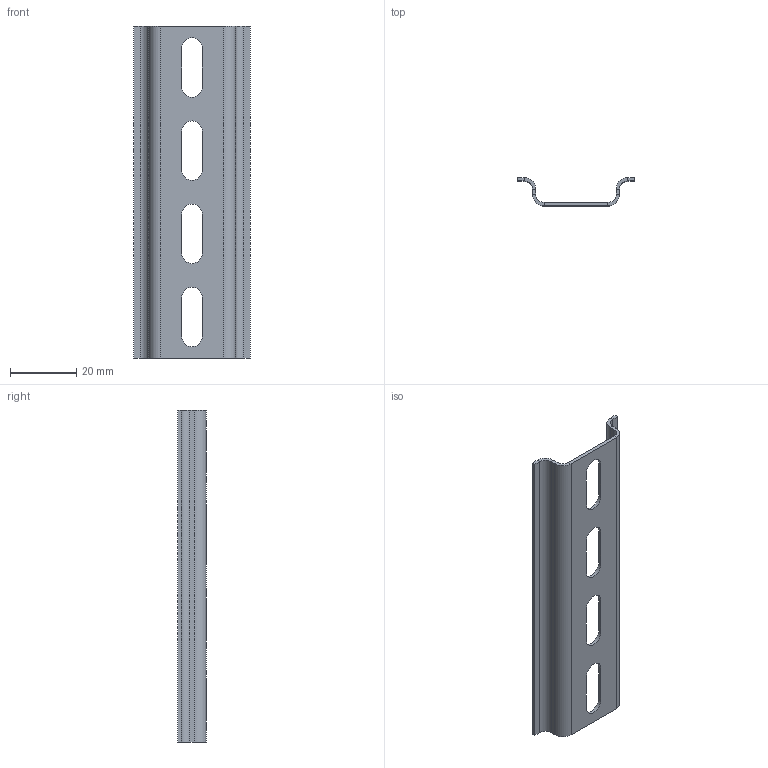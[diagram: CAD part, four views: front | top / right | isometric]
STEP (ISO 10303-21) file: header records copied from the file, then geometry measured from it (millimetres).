
FILE_DESCRIPTION (( 'STEP AP214' ), '1' );
FILE_NAME ('DIN-ðåéêà 100ìì õ 0,1 ìì.STEP', '2025-10-22T11:34:10', ( '' ), ( '' ), 'SwSTEP 2.0', 'SolidWorks 2018', '' );
FILE_SCHEMA (( 'AUTOMOTIVE_DESIGN' ));
Length unit declared in the file: millimetre
Products named in the file (1): DIN-ðåéêà 100ìì õ 0,1 ìì
Bounding box: 35.2 x 8.5 x 100 mm (x, y, z)
Volume: 4097.1 mm3; surface area: 8655.5 mm2
Topology: 1 solids, 1 shells, 58 faces, 136 edges, 80 vertices
Faces by surface type: plane 38, cylinder 20
Entity records: 1674 total; most frequent: DIRECTION 294, CARTESIAN_POINT 275, ORIENTED_EDGE 272, EDGE_CURVE 136, AXIS2_PLACEMENT_3D 99, LINE 96, VECTOR 96, VERTEX_POINT 80
